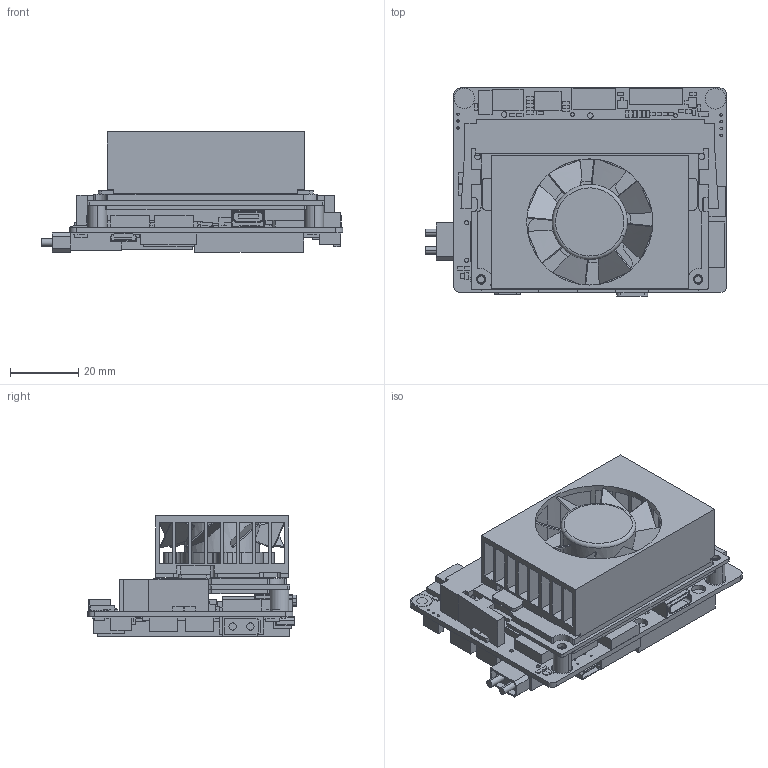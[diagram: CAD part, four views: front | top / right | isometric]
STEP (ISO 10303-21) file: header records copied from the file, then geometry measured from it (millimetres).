
FILE_DESCRIPTION (( 'STEP AP203' ), '1' );
FILE_NAME ('Y-C7-DEV-20230821.STEP', '2023-08-21T01:23:57', ( '' ), ( '' ), 'SwSTEP 2.0', 'SolidWorks 2019', '' );
FILE_SCHEMA (( 'CONFIG_CONTROL_DESIGN' ));
Length unit declared in the file: millimetre
Products named in the file (67): SIC437BED-T1-GE3_1.STEP.STEP; C0402_1.STEP.STEP; 53261-0571_1^Y-C7(2).STEP; C0603_1.STEP.STEP; HOLE3R8-D6R2MM_1^Y-C7(2).STEP; MMBT3904LT1_1.STEP.STEP; HDR200M-1X4_1.STEP.STEP; SN74LVC1T45DBVR_1.STEP.STEP; 2309413-1_1.STEP.STEP; M2.5X6.5____.STEP; 53261-0271_1^Y-C7(2).STEP; C7____.STEP; LED0603_1.STEP.STEP; SMAJ24CA_1.STEP.STEP; Y-C7-V1.STEP; PMV32UP_1^Y-C7(2).STEP; APCI0136-P001A_1^Y-C7(2).STEP; AFC07-S20FCC-00_1^Y-C7(2).STEP; 53261-0871_1^Y-C7(2).STEP; SN74LV1T125DBVR_1.STEP.STEP; TPD1E05U06DPYR-TP_1^Y-C7(2).STEP; NUP2105L_1.STEP.STEP; M3295NL_1.STEP.STEP; MSP5_0A-M3_1.STEP.STEP; GH-4PWT_1.STEP.STEP; EFM8SB10F2G-A-QFN20_1.STEP.STEP; SMMS0420-2R2M_1.STEP.STEP; RT9728BHGE_1^Y-C7(2).STEP; TXS0104EPWR_1.STEP.STEP; P3668_3D_CAD_STEP_Model.stp; T520B337M006ATE040_1.STEP.STEP; TCAN332DCN_1.STEP.STEP; C7瑞圮蚾饜极.STEP; FSV20150V_1.STEP.STEP; GH-8PWT_1.STEP.STEP; LM1117IMPX-3_3_1.STEP.STEP; MAX3232IPWR_1.STEP.STEP; XT30PW-M_1^Y-C7(2).STEP; BAT54C_1.STEP.STEP; TP40_1.STEP.STEP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
Assembly tree (380 placements, depth 3):
  Y-C7-DEV-20230821
    Y-C7-V1.STEP
      Y-C7-V1-0_1^Y-C7(2).STEP
      HOLE3R8-D6R2MM_1^Y-C7(2).STEP
      TPD1E05U06DPYR-TP_1^Y-C7(2).STEP  x14
      RT9728BHGE_1^Y-C7(2).STEP  x2
      HOLE4R22-D6R2MM_1^Y-C7(2).STEP  x4
      APCI0136-P001A_1^Y-C7(2).STEP
      PCIE-52P56H_1^Y-C7(2).STEP
      53261-0571_1^Y-C7(2).STEP
      53261-0471_1^Y-C7(2).STEP  x3
      53261-0271_1^Y-C7(2).STEP  x3
      53261-0871_1^Y-C7(2).STEP
      XT30PW-M_1^Y-C7(2).STEP
      AFC07-S20FCC-00_1^Y-C7(2).STEP
      MWSA0603S-2R2MT_1^Y-C7(2).STEP  x2
      PMV32UP_1^Y-C7(2).STEP
      NCP380HSNAJAAT1G_1^Y-C7(2).STEP
      DLP11TB800UL2_1^Y-C7(2).STEP  x8
      SMMS0420-2R2M_1.STEP.STEP  x2
      T520B337M006ATE040_1.STEP.STEP  x3
      LM1117IMPX-3_3_1.STEP.STEP
      SN74LVC1G07DBVR_1.STEP.STEP  x2
      RT8097CHGB_1.STEP.STEP  x2
      SN74LV1T125DBVR_1.STEP.STEP  x2
      TCAN332DCN_1.STEP.STEP
      EFM8SB10F2G-A-QFN20_1.STEP.STEP
      SIC437BED-T1-GE3_1.STEP.STEP  x2
      SDINBDA4-64G_1.STEP.STEP
      HOLE3R2-D6MM_1.STEP.STEP  x2
      TP40_1.STEP.STEP  x6
      LED0603_1.STEP.STEP  x2
      FB0603_1.STEP.STEP  x2
      C0805_1.STEP.STEP  x22
      SMAJ24CA_1.STEP.STEP
      MSP5_0A-M3_1.STEP.STEP  x3
      C1812_1.STEP.STEP  x2
      C0603_1.STEP.STEP  x11
      T521V107M016ATE050_1.STEP.STEP  x4
      C0402_1.STEP.STEP  x69
      R0402_1.STEP.STEP  x130
      NUP2105L_1.STEP.STEP
      ESDA14V2L_1.STEP.STEP  x4
      FSV20150V_1.STEP.STEP
      ESD122DMX_1.STEP.STEP  x22
      BAT54C_1.STEP.STEP  x4
      DMN26D0UFB4-7_1.STEP.STEP  x7
      HDR200M-1X3_1.STEP.STEP
      MMBT3904LT1_1.STEP.STEP
      HDR200M-1X4_1.STEP.STEP
      GH-4PWT_1.STEP.STEP  x2
      SN74LVC1T45DBVR_1.STEP.STEP
      FSUSB30UMX_1.STEP.STEP
      GH-8PWT_1.STEP.STEP
      TXS0104EPWR_1.STEP.STEP
      MAX3232IPWR_1.STEP.STEP
      SN74AVCH4T245PWT_1.STEP.STEP  x2
      M3295NL_1.STEP.STEP
      HD3SS3220IRNHR_1.STEP.STEP
      2309413-1_1.STEP.STEP
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Bounding box: 88.31 x 61 x 35.21 mm (x, y, z)
Volume: 65139.3 mm3; surface area: 58771.4 mm2
Topology: 378 solids, 378 shells, 2836 faces, 6203 edges, 4126 vertices
Faces by surface type: plane 2517, cylinder 241, bspline 60, cone 16, torus 2
Entity records: 48090 total; most frequent: CARTESIAN_POINT 8334, DIRECTION 5219, ORIENTED_EDGE 4726, EDGE_CURVE 2363, AXIS2_PLACEMENT_3D 1761, VECTOR 1697, LINE 1697, VERTEX_POINT 1568
